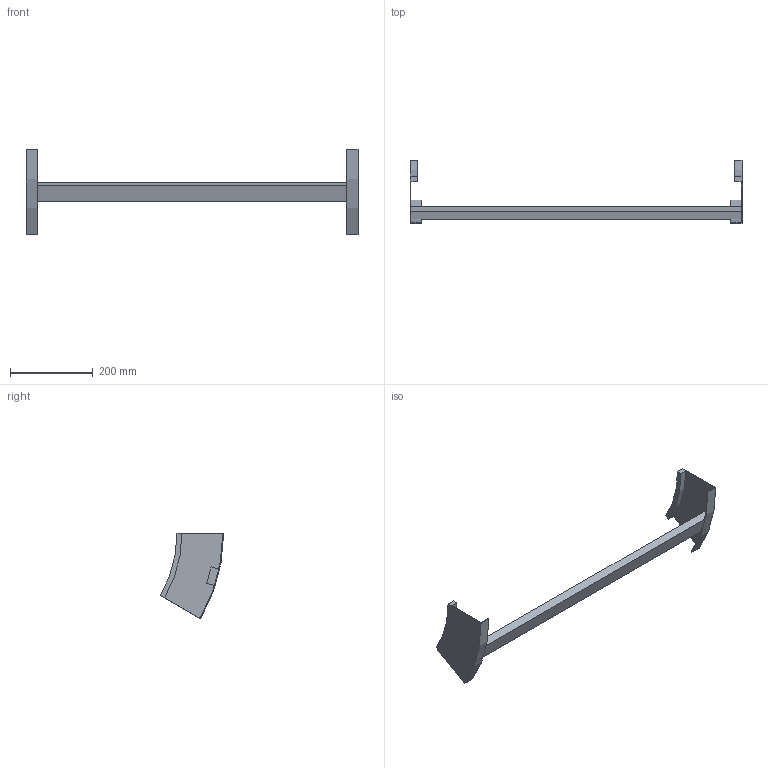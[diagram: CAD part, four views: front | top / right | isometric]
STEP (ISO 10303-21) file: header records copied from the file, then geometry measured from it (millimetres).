
FILE_DESCRIPTION (( 'STEP AP214' ), '1' );
FILE_NAME ('B2X32B3J800XX.step', '2025-03-20T10:00:39', ( '' ), ( '' ), 'SwSTEP 2.0', 'SolidWorks 2023', '' );
FILE_SCHEMA (( 'AUTOMOTIVE_DESIGN' ));
Length unit declared in the file: millimetre
Products named in the file (3): B2_LONGH.SALITA_30°_H112.5_R300; TRAVERSINO_800; B2X32B3J800XX
Assembly tree (3 placements, depth 2):
  B2X32B3J800XX
    B2_LONGH.SALITA_30°_H112.5_R300  x2
    TRAVERSINO_800
Bounding box: 800 x 152.69 x 206.25 mm (x, y, z)
Volume: 811770.5 mm3; surface area: 217035.9 mm2
Topology: 3 solids, 3 shells, 26 faces, 60 edges, 40 vertices
Faces by surface type: plane 18, cylinder 8
Entity records: 544 total; most frequent: DIRECTION 88, CARTESIAN_POINT 82, ORIENTED_EDGE 72, EDGE_CURVE 36, AXIS2_PLACEMENT_3D 30, LINE 28, VECTOR 28, VERTEX_POINT 24
